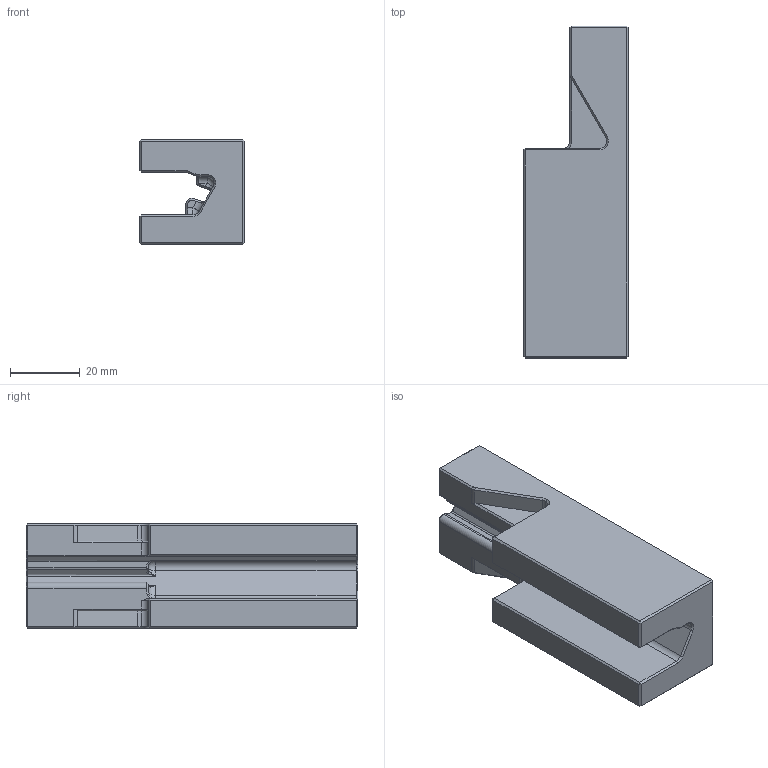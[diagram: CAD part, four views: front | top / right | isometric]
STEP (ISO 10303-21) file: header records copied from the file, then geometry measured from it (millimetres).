
FILE_DESCRIPTION (( 'STEP AP214' ), '1' );
FILE_NAME ('TRL-0035-A.STEP', '2021-06-25T18:40:50', ( '' ), ( '' ), 'SwSTEP 2.0', 'SolidWorks 2016', '' );
FILE_SCHEMA (( 'AUTOMOTIVE_DESIGN' ));
Length unit declared in the file: millimetre
Products named in the file (1): TRL-0035-A
Bounding box: 30 x 95 x 30 mm (x, y, z)
Volume: 55275.7 mm3; surface area: 14316.8 mm2
Topology: 1 solids, 1 shells, 138 faces, 313 edges, 171 vertices
Faces by surface type: plane 81, cone 24, cylinder 23, bspline 6, torus 2, sphere 2
Entity records: 4305 total; most frequent: CARTESIAN_POINT 1308, ORIENTED_EDGE 612, DIRECTION 606, EDGE_CURVE 306, VECTOR 216, LINE 216, AXIS2_PLACEMENT_3D 195, VERTEX_POINT 170
